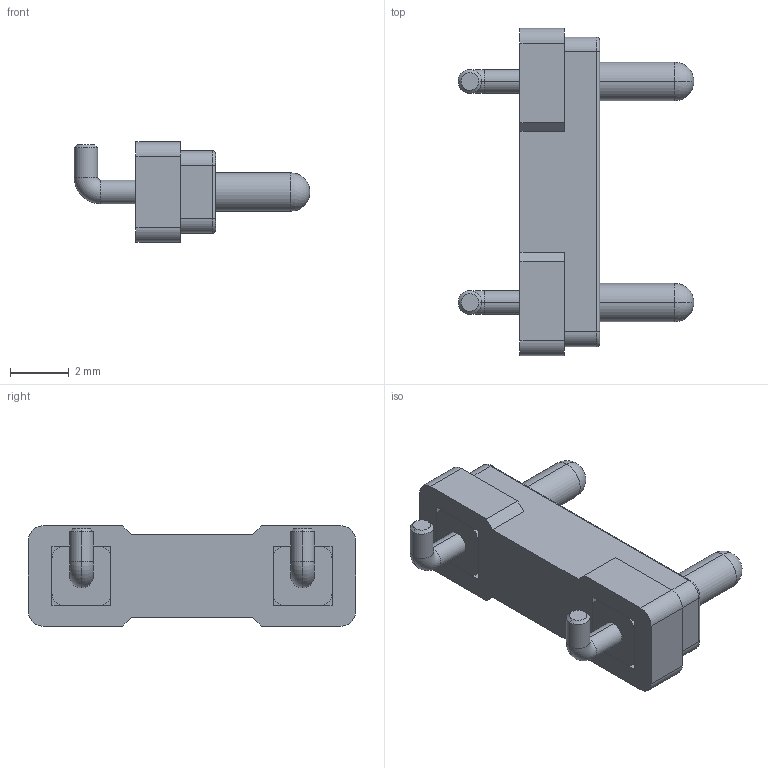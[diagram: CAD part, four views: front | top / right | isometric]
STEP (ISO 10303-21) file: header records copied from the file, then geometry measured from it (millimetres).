
FILE_DESCRIPTION((''),'2;1');
FILE_NAME('NF3847-02PA_ASM','2021-09-16T16:38:28',('Administrator'),(''),'CREO PARAMETRIC BY PTC INC, 2018400','CREO PARAMETRIC BY PTC INC, 2018400','');
FILE_SCHEMA(('CONFIG_CONTROL_DESIGN'));
Length unit declared in the file: millimetre
Products named in the file (3): H3847-02750A; NF3847-01PA; NF3847-02PA_ASM
Assembly tree (3 placements, depth 2):
  NF3847-02PA_ASM
    H3847-02750A
    NF3847-01PA  x2
Bounding box: 8 x 11.1 x 3.4 mm (x, y, z)
Volume: 98 mm3; surface area: 254.8 mm2
Topology: 3 solids, 3 shells, 104 faces, 248 edges, 154 vertices
Faces by surface type: plane 44, cylinder 40, torus 12, sphere 4, cone 4
Entity records: 2326 total; most frequent: DIRECTION 418, CARTESIAN_POINT 383, ORIENTED_EDGE 368, EDGE_CURVE 184, AXIS2_PLACEMENT_3D 152, VERTEX_POINT 117, VECTOR 114, LINE 114
